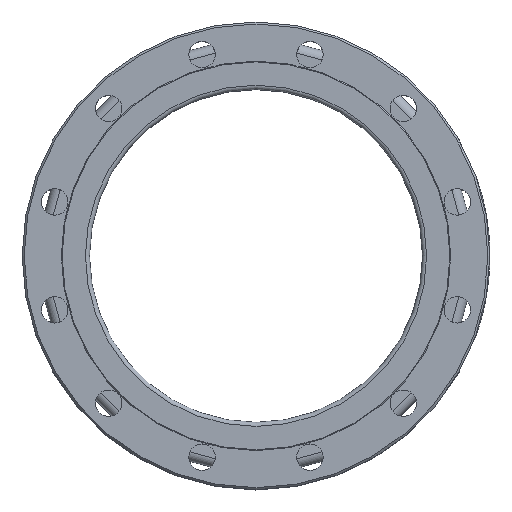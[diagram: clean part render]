
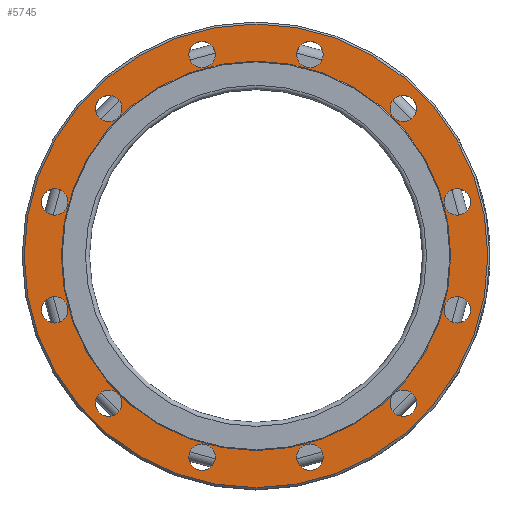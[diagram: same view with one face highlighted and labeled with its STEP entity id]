
A CAD part, top view. The second image highlights one B-rep face of the part: STEP entity #5745.
In plain terms, the highlighted planar face has unit normal (0, 0, 1).
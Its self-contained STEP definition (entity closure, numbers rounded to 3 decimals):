
#1158=FACE_BOUND('',#1806,.T.);
#1159=FACE_BOUND('',#1807,.T.);
#1160=FACE_BOUND('',#1808,.T.);
#1161=FACE_BOUND('',#1809,.T.);
#1162=FACE_BOUND('',#1810,.T.);
#1163=FACE_BOUND('',#1811,.T.);
#1164=FACE_BOUND('',#1812,.T.);
#1165=FACE_BOUND('',#1813,.T.);
#1166=FACE_BOUND('',#1814,.T.);
#1167=FACE_BOUND('',#1815,.T.);
#1168=FACE_BOUND('',#1816,.T.);
#1169=FACE_BOUND('',#1817,.T.);
#1170=FACE_BOUND('',#1818,.T.);
#1468=FACE_OUTER_BOUND('',#1805,.T.);
#1805=EDGE_LOOP('',(#4777));
#1806=EDGE_LOOP('',(#4778));
#1807=EDGE_LOOP('',(#4779));
#1808=EDGE_LOOP('',(#4780));
#1809=EDGE_LOOP('',(#4781));
#1810=EDGE_LOOP('',(#4782));
#1811=EDGE_LOOP('',(#4783));
#1812=EDGE_LOOP('',(#4784));
#1813=EDGE_LOOP('',(#4785));
#1814=EDGE_LOOP('',(#4786));
#1815=EDGE_LOOP('',(#4787));
#1816=EDGE_LOOP('',(#4788));
#1817=EDGE_LOOP('',(#4789));
#1818=EDGE_LOOP('',(#4790));
#2073=CIRCLE('',#6151,228.);
#2074=CIRCLE('',#6154,191.5);
#2075=CIRCLE('',#6155,13.);
#2076=CIRCLE('',#6156,13.);
#2077=CIRCLE('',#6157,13.);
#2078=CIRCLE('',#6158,13.);
#2079=CIRCLE('',#6159,13.);
#2080=CIRCLE('',#6160,13.);
#2081=CIRCLE('',#6161,13.);
#2082=CIRCLE('',#6162,13.);
#2083=CIRCLE('',#6163,13.);
#2084=CIRCLE('',#6164,13.);
#2085=CIRCLE('',#6165,13.);
#2086=CIRCLE('',#6166,13.);
#2619=VERTEX_POINT('',#12573);
#2620=VERTEX_POINT('',#12578);
#2621=VERTEX_POINT('',#12580);
#2622=VERTEX_POINT('',#12582);
#2623=VERTEX_POINT('',#12584);
#2624=VERTEX_POINT('',#12586);
#2625=VERTEX_POINT('',#12588);
#2626=VERTEX_POINT('',#12590);
#2627=VERTEX_POINT('',#12592);
#2628=VERTEX_POINT('',#12594);
#2629=VERTEX_POINT('',#12596);
#2630=VERTEX_POINT('',#12598);
#2631=VERTEX_POINT('',#12600);
#2632=VERTEX_POINT('',#12602);
#3351=EDGE_CURVE('',#2619,#2619,#2073,.T.);
#3353=EDGE_CURVE('',#2620,#2620,#2074,.T.);
#3354=EDGE_CURVE('',#2621,#2621,#2075,.T.);
#3355=EDGE_CURVE('',#2622,#2622,#2076,.T.);
#3356=EDGE_CURVE('',#2623,#2623,#2077,.T.);
#3357=EDGE_CURVE('',#2624,#2624,#2078,.T.);
#3358=EDGE_CURVE('',#2625,#2625,#2079,.T.);
#3359=EDGE_CURVE('',#2626,#2626,#2080,.T.);
#3360=EDGE_CURVE('',#2627,#2627,#2081,.T.);
#3361=EDGE_CURVE('',#2628,#2628,#2082,.T.);
#3362=EDGE_CURVE('',#2629,#2629,#2083,.T.);
#3363=EDGE_CURVE('',#2630,#2630,#2084,.T.);
#3364=EDGE_CURVE('',#2631,#2631,#2085,.T.);
#3365=EDGE_CURVE('',#2632,#2632,#2086,.T.);
#4777=ORIENTED_EDGE('',*,*,#3351,.T.);
#4778=ORIENTED_EDGE('',*,*,#3353,.T.);
#4779=ORIENTED_EDGE('',*,*,#3354,.F.);
#4780=ORIENTED_EDGE('',*,*,#3355,.F.);
#4781=ORIENTED_EDGE('',*,*,#3356,.F.);
#4782=ORIENTED_EDGE('',*,*,#3357,.F.);
#4783=ORIENTED_EDGE('',*,*,#3358,.F.);
#4784=ORIENTED_EDGE('',*,*,#3359,.F.);
#4785=ORIENTED_EDGE('',*,*,#3360,.F.);
#4786=ORIENTED_EDGE('',*,*,#3361,.F.);
#4787=ORIENTED_EDGE('',*,*,#3362,.F.);
#4788=ORIENTED_EDGE('',*,*,#3363,.F.);
#4789=ORIENTED_EDGE('',*,*,#3364,.F.);
#4790=ORIENTED_EDGE('',*,*,#3365,.F.);
#5101=PLANE('',#6153);
#5745=ADVANCED_FACE('',(#1468,#1158,#1159,#1160,#1161,#1162,#1163,#1164,
#1165,#1166,#1167,#1168,#1169,#1170),#5101,.F.);
#6151=AXIS2_PLACEMENT_3D('',#12574,#7263,#7264);
#6153=AXIS2_PLACEMENT_3D('',#12577,#7268,#7269);
#6154=AXIS2_PLACEMENT_3D('',#12579,#7270,#7271);
#6155=AXIS2_PLACEMENT_3D('',#12581,#7272,#7273);
#6156=AXIS2_PLACEMENT_3D('',#12583,#7274,#7275);
#6157=AXIS2_PLACEMENT_3D('',#12585,#7276,#7277);
#6158=AXIS2_PLACEMENT_3D('',#12587,#7278,#7279);
#6159=AXIS2_PLACEMENT_3D('',#12589,#7280,#7281);
#6160=AXIS2_PLACEMENT_3D('',#12591,#7282,#7283);
#6161=AXIS2_PLACEMENT_3D('',#12593,#7284,#7285);
#6162=AXIS2_PLACEMENT_3D('',#12595,#7286,#7287);
#6163=AXIS2_PLACEMENT_3D('',#12597,#7288,#7289);
#6164=AXIS2_PLACEMENT_3D('',#12599,#7290,#7291);
#6165=AXIS2_PLACEMENT_3D('',#12601,#7292,#7293);
#6166=AXIS2_PLACEMENT_3D('',#12603,#7294,#7295);
#7263=DIRECTION('center_axis',(0.,0.,1.));
#7264=DIRECTION('ref_axis',(0.,-1.,0.));
#7268=DIRECTION('center_axis',(0.,0.,-1.));
#7269=DIRECTION('ref_axis',(-1.,0.,0.));
#7270=DIRECTION('center_axis',(0.,0.,-1.));
#7271=DIRECTION('ref_axis',(1.,0.,0.));
#7272=DIRECTION('center_axis',(0.,0.,1.));
#7273=DIRECTION('ref_axis',(-1.,0.,0.));
#7274=DIRECTION('center_axis',(0.,0.,1.));
#7275=DIRECTION('ref_axis',(-1.,0.,0.));
#7276=DIRECTION('center_axis',(0.,0.,1.));
#7277=DIRECTION('ref_axis',(-1.,0.,0.));
#7278=DIRECTION('center_axis',(0.,0.,1.));
#7279=DIRECTION('ref_axis',(-1.,0.,0.));
#7280=DIRECTION('center_axis',(0.,0.,1.));
#7281=DIRECTION('ref_axis',(-1.,0.,0.));
#7282=DIRECTION('center_axis',(0.,0.,1.));
#7283=DIRECTION('ref_axis',(-1.,0.,0.));
#7284=DIRECTION('center_axis',(0.,0.,1.));
#7285=DIRECTION('ref_axis',(-1.,0.,0.));
#7286=DIRECTION('center_axis',(0.,0.,1.));
#7287=DIRECTION('ref_axis',(-1.,0.,0.));
#7288=DIRECTION('center_axis',(0.,0.,1.));
#7289=DIRECTION('ref_axis',(-1.,0.,0.));
#7290=DIRECTION('center_axis',(0.,0.,1.));
#7291=DIRECTION('ref_axis',(-1.,0.,0.));
#7292=DIRECTION('center_axis',(0.,0.,1.));
#7293=DIRECTION('ref_axis',(-1.,0.,0.));
#7294=DIRECTION('center_axis',(0.,0.,1.));
#7295=DIRECTION('ref_axis',(-1.,0.,0.));
#12573=CARTESIAN_POINT('',(0.,228.,80.));
#12574=CARTESIAN_POINT('Origin',(0.,0.,80.));
#12577=CARTESIAN_POINT('Origin',(0.,163.75,80.));
#12578=CARTESIAN_POINT('',(-191.5,0.,80.));
#12579=CARTESIAN_POINT('Origin',(0.,0.,80.));
#12580=CARTESIAN_POINT('',(-131.957,-144.957,80.));
#12581=CARTESIAN_POINT('Origin',(-144.957,-144.957,80.));
#12582=CARTESIAN_POINT('',(66.058,-198.015,80.));
#12583=CARTESIAN_POINT('Origin',(53.058,-198.015,80.));
#12584=CARTESIAN_POINT('',(157.957,144.957,80.));
#12585=CARTESIAN_POINT('Origin',(144.957,144.957,80.));
#12586=CARTESIAN_POINT('',(-131.957,144.957,80.));
#12587=CARTESIAN_POINT('Origin',(-144.957,144.957,80.));
#12588=CARTESIAN_POINT('',(-40.058,198.015,80.));
#12589=CARTESIAN_POINT('Origin',(-53.058,198.015,80.));
#12590=CARTESIAN_POINT('',(157.957,-144.957,80.));
#12591=CARTESIAN_POINT('Origin',(144.957,-144.957,80.));
#12592=CARTESIAN_POINT('',(-185.015,-53.058,80.));
#12593=CARTESIAN_POINT('Origin',(-198.015,-53.058,80.));
#12594=CARTESIAN_POINT('',(-40.058,-198.015,80.));
#12595=CARTESIAN_POINT('Origin',(-53.058,-198.015,80.));
#12596=CARTESIAN_POINT('',(211.015,53.058,80.));
#12597=CARTESIAN_POINT('Origin',(198.015,53.058,80.));
#12598=CARTESIAN_POINT('',(-185.015,53.058,80.));
#12599=CARTESIAN_POINT('Origin',(-198.015,53.058,80.));
#12600=CARTESIAN_POINT('',(66.058,198.015,80.));
#12601=CARTESIAN_POINT('Origin',(53.058,198.015,80.));
#12602=CARTESIAN_POINT('',(211.015,-53.058,80.));
#12603=CARTESIAN_POINT('Origin',(198.015,-53.058,80.));
